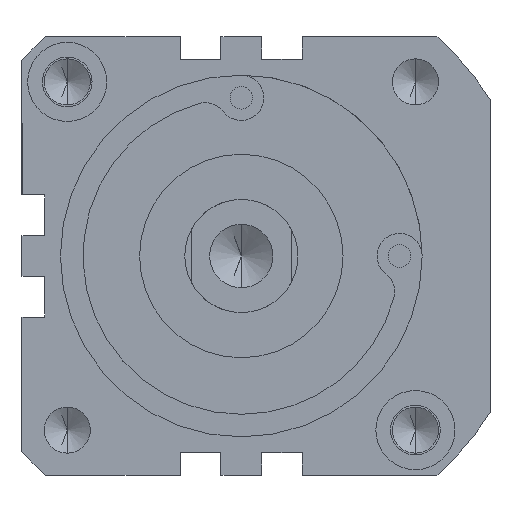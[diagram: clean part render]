
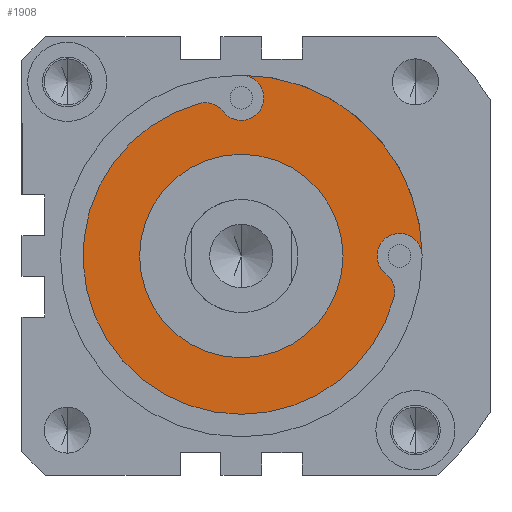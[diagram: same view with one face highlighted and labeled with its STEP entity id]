
A CAD part, front view. The second image highlights one B-rep face of the part: STEP entity #1908.
In plain terms, the highlighted planar face has unit normal (0, -1, 0) as drawn and (0, 1, 0) by its records, which use the part's own axes.
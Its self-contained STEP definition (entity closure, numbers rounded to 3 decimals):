
#21 = DIRECTION ( 'NONE',  ( 0., 0., 1. ) ) ;
#27 = CARTESIAN_POINT ( 'NONE',  ( 0., -2., 0. ) ) ;
#33 = DIRECTION ( 'NONE',  ( 0., 1., 0. ) ) ;
#37 = CIRCLE ( 'NONE', #2317, 5. ) ;
#61 = DIRECTION ( 'NONE',  ( 0., 0., 1. ) ) ;
#122 = DIRECTION ( 'NONE',  ( 0., 1., 0. ) ) ;
#124 = EDGE_CURVE ( 'NONE', #1735, #560, #37, .T. ) ;
#159 = ORIENTED_EDGE ( 'NONE', *, *, #474, .F. ) ;
#178 = CARTESIAN_POINT ( 'NONE',  ( 31.964, -2., 3.973 ) ) ;
#232 = EDGE_CURVE ( 'NONE', #599, #1820, #1800, .T. ) ;
#269 = ORIENTED_EDGE ( 'NONE', *, *, #2916, .F. ) ;
#272 = ORIENTED_EDGE ( 'NONE', *, *, #1893, .F. ) ;
#279 = DIRECTION ( 'NONE',  ( 0., 0., 1. ) ) ;
#288 = DIRECTION ( 'NONE',  ( 0., 1., 0. ) ) ;
#314 = EDGE_LOOP ( 'NONE', ( #272, #618 ) ) ;
#319 = CARTESIAN_POINT ( 'NONE',  ( 0., -2., -30. ) ) ;
#321 = CARTESIAN_POINT ( 'NONE',  ( 33.75, -2., 9.27 ) ) ;
#331 = CARTESIAN_POINT ( 'NONE',  ( 35., -2., 0. ) ) ;
#345 = CARTESIAN_POINT ( 'NONE',  ( 0., -2., 35. ) ) ;
#422 = CARTESIAN_POINT ( 'NONE',  ( 0., -2., -40. ) ) ;
#474 = EDGE_CURVE ( 'NONE', #1726, #852, #3435, .T. ) ;
#482 = ORIENTED_EDGE ( 'NONE', *, *, #124, .T. ) ;
#490 = DIRECTION ( 'NONE',  ( 0., 1., 0. ) ) ;
#501 = DIRECTION ( 'NONE',  ( 0., 0., 1. ) ) ;
#520 = CARTESIAN_POINT ( 'NONE',  ( -3.973, -2., -31.964 ) ) ;
#523 = AXIS2_PLACEMENT_3D ( 'NONE', #2071, #2042, #2586 ) ;
#560 = VERTEX_POINT ( 'NONE', #1417 ) ;
#599 = VERTEX_POINT ( 'NONE', #345 ) ;
#618 = ORIENTED_EDGE ( 'NONE', *, *, #2486, .F. ) ;
#689 = CARTESIAN_POINT ( 'NONE',  ( 0., -2., 0. ) ) ;
#692 = VERTEX_POINT ( 'NONE', #319 ) ;
#707 = CIRCLE ( 'NONE', #2496, 35. ) ;
#764 = DIRECTION ( 'NONE',  ( 0., 1., 0. ) ) ;
#775 = CIRCLE ( 'NONE', #945, 5. ) ;
#805 = CARTESIAN_POINT ( 'NONE',  ( 0., -2., 0. ) ) ;
#852 = VERTEX_POINT ( 'NONE', #178 ) ;
#857 = CARTESIAN_POINT ( 'NONE',  ( 0., -2., 0. ) ) ;
#867 = EDGE_CURVE ( 'NONE', #1726, #2386, #1127, .T. ) ;
#927 = AXIS2_PLACEMENT_3D ( 'NONE', #1097, #33, #3245 ) ;
#945 = AXIS2_PLACEMENT_3D ( 'NONE', #3205, #1380, #2173 ) ;
#994 = CIRCLE ( 'NONE', #927, 5. ) ;
#1097 = CARTESIAN_POINT ( 'NONE',  ( 0., -2., -35. ) ) ;
#1120 = DIRECTION ( 'NONE',  ( 0., 0., 1. ) ) ;
#1127 = CIRCLE ( 'NONE', #2186, 40. ) ;
#1281 = CIRCLE ( 'NONE', #2379, 22.5 ) ;
#1380 = DIRECTION ( 'NONE',  ( 0., 1., 0. ) ) ;
#1403 = DIRECTION ( 'NONE',  ( 0., 1., 0. ) ) ;
#1417 = CARTESIAN_POINT ( 'NONE',  ( -9.27, -2., -33.75 ) ) ;
#1458 = DIRECTION ( 'NONE',  ( 0., 0., 1. ) ) ;
#1564 = AXIS2_PLACEMENT_3D ( 'NONE', #857, #1403, #1900 ) ;
#1589 = ORIENTED_EDGE ( 'NONE', *, *, #867, .T. ) ;
#1590 = ORIENTED_EDGE ( 'NONE', *, *, #2585, .T. ) ;
#1660 = CARTESIAN_POINT ( 'NONE',  ( 0., -2., -22.5 ) ) ;
#1691 = EDGE_CURVE ( 'NONE', #1820, #852, #1955, .T. ) ;
#1726 = VERTEX_POINT ( 'NONE', #2659 ) ;
#1735 = VERTEX_POINT ( 'NONE', #520 ) ;
#1746 = DIRECTION ( 'NONE',  ( 0., 1., 0. ) ) ;
#1771 = CARTESIAN_POINT ( 'NONE',  ( 0., -2., 22.5 ) ) ;
#1800 = CIRCLE ( 'NONE', #2852, 35. ) ;
#1820 = VERTEX_POINT ( 'NONE', #321 ) ;
#1893 = EDGE_CURVE ( 'NONE', #2557, #3034, #1281, .T. ) ;
#1900 = DIRECTION ( 'NONE',  ( 0., 0., 1. ) ) ;
#1908 = ADVANCED_FACE ( 'NONE', ( #2046, #3258 ), #1922, .T. ) ;
#1922 = PLANE ( 'NONE',  #1564 ) ;
#1955 = CIRCLE ( 'NONE', #1995, 5. ) ;
#1995 = AXIS2_PLACEMENT_3D ( 'NONE', #3177, #2391, #279 ) ;
#2042 = DIRECTION ( 'NONE',  ( 0., 1., 0. ) ) ;
#2046 = FACE_OUTER_BOUND ( 'NONE', #2417, .T. ) ;
#2061 = AXIS2_PLACEMENT_3D ( 'NONE', #331, #288, #61 ) ;
#2071 = CARTESIAN_POINT ( 'NONE',  ( 0., -2., 0. ) ) ;
#2122 = CARTESIAN_POINT ( 'NONE',  ( 0., -2., 0. ) ) ;
#2173 = DIRECTION ( 'NONE',  ( 0., 0., 1. ) ) ;
#2186 = AXIS2_PLACEMENT_3D ( 'NONE', #689, #1746, #3391 ) ;
#2233 = ORIENTED_EDGE ( 'NONE', *, *, #2866, .F. ) ;
#2255 = ORIENTED_EDGE ( 'NONE', *, *, #232, .T. ) ;
#2317 = AXIS2_PLACEMENT_3D ( 'NONE', #3055, #122, #1458 ) ;
#2379 = AXIS2_PLACEMENT_3D ( 'NONE', #27, #2698, #1120 ) ;
#2386 = VERTEX_POINT ( 'NONE', #422 ) ;
#2391 = DIRECTION ( 'NONE',  ( 0., 1., 0. ) ) ;
#2417 = EDGE_LOOP ( 'NONE', ( #1590, #2255, #2601, #159, #1589, #269, #2233, #482 ) ) ;
#2486 = EDGE_CURVE ( 'NONE', #3034, #2557, #3253, .T. ) ;
#2496 = AXIS2_PLACEMENT_3D ( 'NONE', #2122, #490, #501 ) ;
#2557 = VERTEX_POINT ( 'NONE', #1771 ) ;
#2585 = EDGE_CURVE ( 'NONE', #560, #599, #707, .T. ) ;
#2586 = DIRECTION ( 'NONE',  ( 0., 0., 1. ) ) ;
#2601 = ORIENTED_EDGE ( 'NONE', *, *, #1691, .T. ) ;
#2659 = CARTESIAN_POINT ( 'NONE',  ( 40., -2., 0. ) ) ;
#2698 = DIRECTION ( 'NONE',  ( 0., 1., 0. ) ) ;
#2852 = AXIS2_PLACEMENT_3D ( 'NONE', #805, #764, #21 ) ;
#2866 = EDGE_CURVE ( 'NONE', #1735, #692, #775, .T. ) ;
#2916 = EDGE_CURVE ( 'NONE', #692, #2386, #994, .T. ) ;
#3034 = VERTEX_POINT ( 'NONE', #1660 ) ;
#3055 = CARTESIAN_POINT ( 'NONE',  ( -7.946, -2., -28.929 ) ) ;
#3177 = CARTESIAN_POINT ( 'NONE',  ( 28.929, -2., 7.946 ) ) ;
#3205 = CARTESIAN_POINT ( 'NONE',  ( 0., -2., -35. ) ) ;
#3245 = DIRECTION ( 'NONE',  ( 0., 0., 1. ) ) ;
#3253 = CIRCLE ( 'NONE', #523, 22.5 ) ;
#3258 = FACE_BOUND ( 'NONE', #314, .T. ) ;
#3391 = DIRECTION ( 'NONE',  ( 0., 0., 1. ) ) ;
#3435 = CIRCLE ( 'NONE', #2061, 5. ) ;
